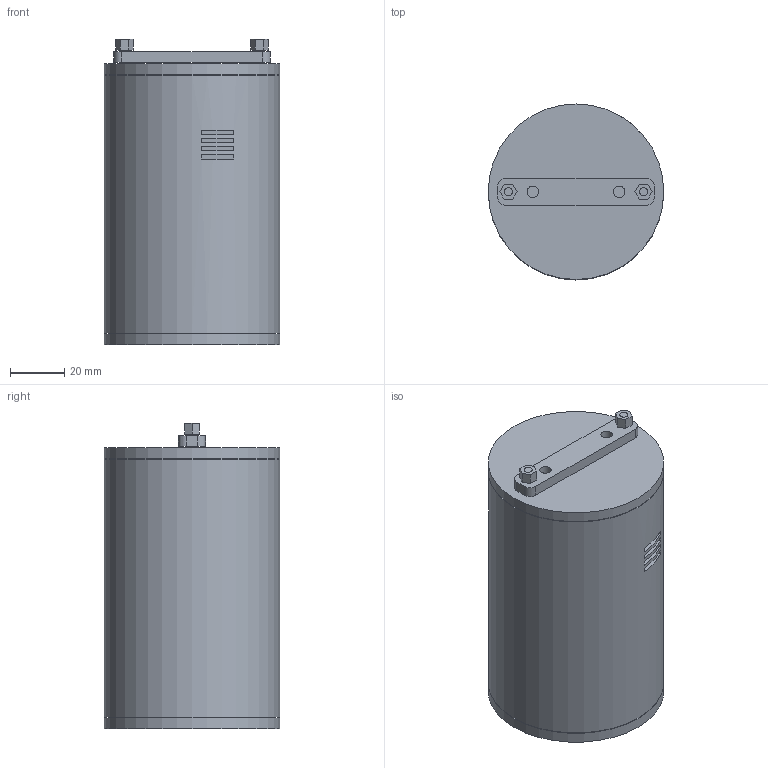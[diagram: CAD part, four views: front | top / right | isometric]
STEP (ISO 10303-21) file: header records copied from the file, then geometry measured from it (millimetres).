
FILE_DESCRIPTION(('Open CASCADE Model'),'2;1');
FILE_NAME('Open CASCADE Shape Model','2026-10-24T16:14:25',('Author'),( 'Open CASCADE'),'Open CASCADE STEP processor 7.9','Open CASCADE 7.9' ,'Unknown');
FILE_SCHEMA(('AUTOMOTIVE_DESIGN { 1 0 10303 214 1 1 1 1 }'));
Length unit declared in the file: millimetre
Products named in the file (46): STRATOS_RevA; BottomCap; TopCap; Shell; Spine; Yoke; Rod1; Rod2; Nut1; Nut2; Nut3; Nut4; Carrier; ESP32_Headers_L; ESP32_Headers_R; ESP32_DevKitC; ESP32_Module; ESP32_USB; SD_Breakout; Regulator; C1_Bulk; LED; BUZZER; J1_BATT; J4_SWITCH; J2_SENS; J3_RADIO; J5_RADIO; U7_Protection; Batt_Holder; Cell_18650; IMU; LoRa; BME280; Antenna; Switch; Standoff1; Standoff2; Standoff3; Standoff4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
Assembly tree (45 placements, depth 2):
  STRATOS_RevA
    BottomCap
    TopCap
    Shell
    Spine
    Yoke
    Rod1
    Rod2
    Nut1
    Nut2
    Nut3
    Nut4
    Carrier
    ESP32_Headers_L
    ESP32_Headers_R
    ESP32_DevKitC
    ESP32_Module
    ESP32_USB
    SD_Breakout
    Regulator
    C1_Bulk
    LED
    BUZZER
    J1_BATT
    J4_SWITCH
    J2_SENS
    J3_RADIO
    J5_RADIO
    U7_Protection
    Batt_Holder
    Cell_18650
    IMU
    LoRa
    BME280
    Antenna
    Switch
    Standoff1
    Standoff2
    Standoff3
    Standoff4
    Standoff5
    Standoff6
    Standoff7
    Standoff8
    Standoff9
    Standoff10
Bounding box: 65 x 65 x 113 mm (x, y, z)
Volume: 158911.7 mm3; surface area: 113273.1 mm2
Topology: 45 solids, 45 shells, 355 faces, 793 edges, 525 vertices
Faces by surface type: plane 278, cylinder 77
Full cylindrical faces by diameter (mm): 1.8 x6, 2.2 x2, 2.7 x14, 3 x10, 3.4 x8, 4.2 x2, 4.5 x10, 5 x1, 6 x1, 6.3 x1, 12 x1, 18.55 x1, 61.6 x2, 61.8 x1, 65 x3
Entity records: 23711 total; most frequent: CARTESIAN_POINT 6316, DIRECTION 3021, LINE 1823, VECTOR 1823, ORIENTED_EDGE 1586, PCURVE 1586, DEFINITIONAL_REPRESENTATION 1586, EDGE_CURVE 793
